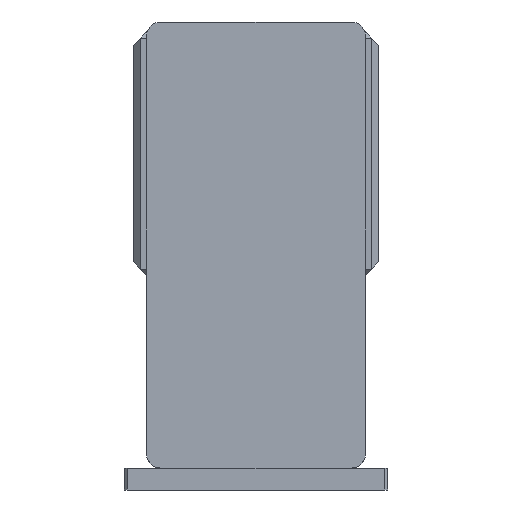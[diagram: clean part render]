
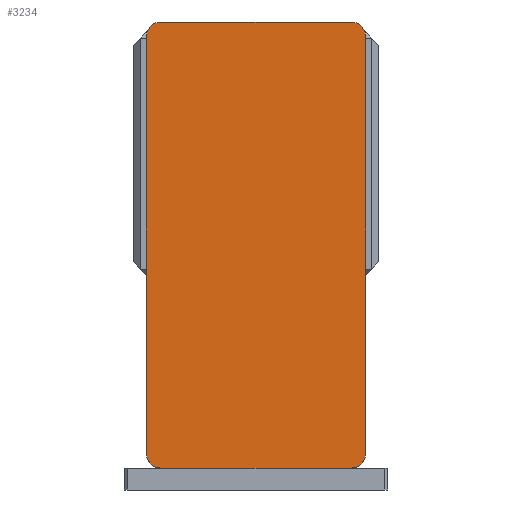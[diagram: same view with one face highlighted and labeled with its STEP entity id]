
A CAD part, left-side view. The second image highlights one B-rep face of the part: STEP entity #3234.
In plain terms, the highlighted planar face has unit normal (-1, 0, 0) as drawn and (0, 0, 1) by its records, which use the part's own axes.
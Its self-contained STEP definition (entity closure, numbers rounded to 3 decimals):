
#48 = ORIENTED_EDGE ( 'NONE', *, *, #5632, .T. ) ;
#201 = VECTOR ( 'NONE', #8520, 1000. ) ;
#436 = DIRECTION ( 'NONE',  ( 0., 0., 1. ) ) ;
#537 = CARTESIAN_POINT ( 'NONE',  ( -65., -152.5, 105. ) ) ;
#665 = VERTEX_POINT ( 'NONE', #1169 ) ;
#791 = VECTOR ( 'NONE', #4336, 1000. ) ;
#1112 = DIRECTION ( 'NONE',  ( 0., 0., 1. ) ) ;
#1169 = CARTESIAN_POINT ( 'NONE',  ( 65., -152.5, 105. ) ) ;
#1452 = CARTESIAN_POINT ( 'NONE',  ( 65., -142.5, 105. ) ) ;
#1462 = CARTESIAN_POINT ( 'NONE',  ( -75., -142.5, 105. ) ) ;
#1483 = DIRECTION ( 'NONE',  ( 1., 0., 0. ) ) ;
#1582 = CARTESIAN_POINT ( 'NONE',  ( 75., -142.5, 105. ) ) ;
#1589 = CARTESIAN_POINT ( 'NONE',  ( -65., 152.5, 105. ) ) ;
#1766 = CIRCLE ( 'NONE', #9339, 10. ) ;
#1942 = VECTOR ( 'NONE', #9644, 1000. ) ;
#2046 = DIRECTION ( 'NONE',  ( 0., 0., 1. ) ) ;
#2062 = AXIS2_PLACEMENT_3D ( 'NONE', #10538, #5056, #11420 ) ;
#2079 = DIRECTION ( 'NONE',  ( 1., 0., 0. ) ) ;
#2126 = VERTEX_POINT ( 'NONE', #11333 ) ;
#2145 = ORIENTED_EDGE ( 'NONE', *, *, #5240, .T. ) ;
#2279 = EDGE_CURVE ( 'NONE', #10159, #4724, #3566, .T. ) ;
#2440 = EDGE_CURVE ( 'NONE', #665, #6299, #6418, .T. ) ;
#2446 = CARTESIAN_POINT ( 'NONE',  ( 0., 0., 105. ) ) ;
#2615 = PLANE ( 'NONE',  #9537 ) ;
#3209 = EDGE_CURVE ( 'NONE', #2126, #3258, #9957, .T. ) ;
#3234 = ADVANCED_FACE ( 'NONE', ( #7263 ), #2615, .T. ) ;
#3258 = VERTEX_POINT ( 'NONE', #1462 ) ;
#3566 = LINE ( 'NONE', #5237, #791 ) ;
#3776 = AXIS2_PLACEMENT_3D ( 'NONE', #1452, #1112, #1483 ) ;
#4336 = DIRECTION ( 'NONE',  ( -1., 0., 0. ) ) ;
#4652 = ORIENTED_EDGE ( 'NONE', *, *, #2440, .T. ) ;
#4724 = VERTEX_POINT ( 'NONE', #1589 ) ;
#4791 = VECTOR ( 'NONE', #7260, 1000. ) ;
#5056 = DIRECTION ( 'NONE',  ( 0., 0., 1. ) ) ;
#5075 = LINE ( 'NONE', #8166, #4791 ) ;
#5079 = CARTESIAN_POINT ( 'NONE',  ( -75., -152.5, 105. ) ) ;
#5122 = CIRCLE ( 'NONE', #10354, 10. ) ;
#5237 = CARTESIAN_POINT ( 'NONE',  ( -75., 152.5, 105. ) ) ;
#5240 = EDGE_CURVE ( 'NONE', #4724, #2126, #11427, .T. ) ;
#5341 = CARTESIAN_POINT ( 'NONE',  ( 65., 142.5, 105. ) ) ;
#5632 = EDGE_CURVE ( 'NONE', #9113, #665, #6837, .T. ) ;
#5671 = CARTESIAN_POINT ( 'NONE',  ( 65., 152.5, 105. ) ) ;
#5932 = CARTESIAN_POINT ( 'NONE',  ( -65., -142.5, 105. ) ) ;
#6293 = DIRECTION ( 'NONE',  ( 1., 0., 0. ) ) ;
#6299 = VERTEX_POINT ( 'NONE', #1582 ) ;
#6418 = CIRCLE ( 'NONE', #3776, 10. ) ;
#6837 = LINE ( 'NONE', #5079, #1942 ) ;
#6876 = DIRECTION ( 'NONE',  ( 1., 0., 0. ) ) ;
#7260 = DIRECTION ( 'NONE',  ( 0., 1., 0. ) ) ;
#7263 = FACE_OUTER_BOUND ( 'NONE', #11523, .T. ) ;
#7495 = EDGE_CURVE ( 'NONE', #3258, #9113, #5122, .T. ) ;
#7762 = ORIENTED_EDGE ( 'NONE', *, *, #8795, .T. ) ;
#7805 = CARTESIAN_POINT ( 'NONE',  ( 75., 142.5, 105. ) ) ;
#8045 = ORIENTED_EDGE ( 'NONE', *, *, #3209, .T. ) ;
#8090 = CARTESIAN_POINT ( 'NONE',  ( -75., 152.5, 105. ) ) ;
#8166 = CARTESIAN_POINT ( 'NONE',  ( 75., 152.5, 105. ) ) ;
#8190 = ORIENTED_EDGE ( 'NONE', *, *, #2279, .T. ) ;
#8520 = DIRECTION ( 'NONE',  ( 0., -1., 0. ) ) ;
#8795 = EDGE_CURVE ( 'NONE', #6299, #9036, #5075, .T. ) ;
#9036 = VERTEX_POINT ( 'NONE', #7805 ) ;
#9113 = VERTEX_POINT ( 'NONE', #537 ) ;
#9131 = ORIENTED_EDGE ( 'NONE', *, *, #7495, .T. ) ;
#9298 = EDGE_CURVE ( 'NONE', #9036, #10159, #1766, .T. ) ;
#9339 = AXIS2_PLACEMENT_3D ( 'NONE', #5341, #11664, #6293 ) ;
#9537 = AXIS2_PLACEMENT_3D ( 'NONE', #2446, #2046, #2079 ) ;
#9644 = DIRECTION ( 'NONE',  ( 1., 0., 0. ) ) ;
#9957 = LINE ( 'NONE', #8090, #201 ) ;
#10159 = VERTEX_POINT ( 'NONE', #5671 ) ;
#10290 = ORIENTED_EDGE ( 'NONE', *, *, #9298, .T. ) ;
#10354 = AXIS2_PLACEMENT_3D ( 'NONE', #5932, #436, #6876 ) ;
#10538 = CARTESIAN_POINT ( 'NONE',  ( -65., 142.5, 105. ) ) ;
#11333 = CARTESIAN_POINT ( 'NONE',  ( -75., 142.5, 105. ) ) ;
#11420 = DIRECTION ( 'NONE',  ( 1., 0., 0. ) ) ;
#11427 = CIRCLE ( 'NONE', #2062, 10. ) ;
#11523 = EDGE_LOOP ( 'NONE', ( #48, #4652, #7762, #10290, #8190, #2145, #8045, #9131 ) ) ;
#11664 = DIRECTION ( 'NONE',  ( 0., 0., 1. ) ) ;
